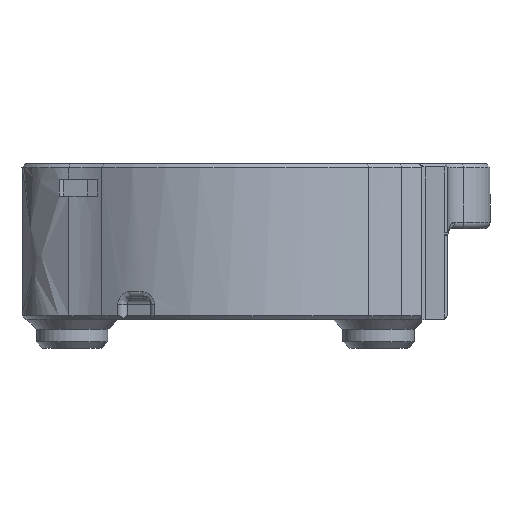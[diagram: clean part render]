
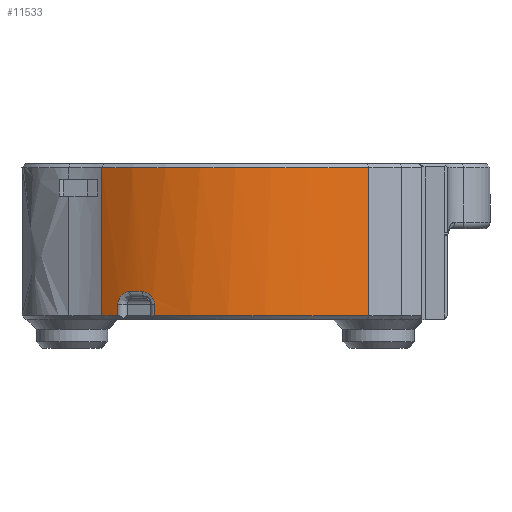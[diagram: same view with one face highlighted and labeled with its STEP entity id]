
A CAD part, left-side view. The second image highlights one B-rep face of the part: STEP entity #11533.
In plain terms, the highlighted cylindrical face has radius 35.44 mm (diameter 70.881 mm), a partial arc.
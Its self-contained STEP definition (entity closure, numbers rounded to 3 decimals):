
#1128=FACE_OUTER_BOUND('',#1817,.T.);
#1817=EDGE_LOOP('',(#10447,#10448,#10449,#10450,#10451,#10452,#10453,#10454,
#10455,#10456));
#2005=CIRCLE('',#12046,35.44);
#2008=CIRCLE('',#12057,35.44);
#2051=CIRCLE('',#12160,35.44);
#2055=CIRCLE('',#12173,35.44);
#2685=B_SPLINE_CURVE_WITH_KNOTS('',3,(#27312,#27313,#27314,#27315,#27316),
 .UNSPECIFIED.,.F.,.F.,(4,1,4),(0.,0.136,0.318),
 .UNSPECIFIED.);
#2687=B_SPLINE_CURVE_WITH_KNOTS('',3,(#27356,#27357,#27358,#27359,#27360),
 .UNSPECIFIED.,.F.,.F.,(4,1,4),(0.,0.18,0.315),
 .UNSPECIFIED.);
#2756=B_SPLINE_CURVE_WITH_KNOTS('',3,(#30514,#30515,#30516,#30517),
 .UNSPECIFIED.,.F.,.F.,(4,4),(-2.34,-0.06),.UNSPECIFIED.);
#2758=B_SPLINE_CURVE_WITH_KNOTS('',3,(#30524,#30525,#30526,#30527),
 .UNSPECIFIED.,.F.,.F.,(4,4),(0.06,2.34),.UNSPECIFIED.);
#3446=LINE('',#27263,#4297);
#3447=LINE('',#27372,#4298);
#4297=VECTOR('',#13770,10.);
#4298=VECTOR('',#13785,10.);
#5423=VERTEX_POINT('',#27260);
#5424=VERTEX_POINT('',#27262);
#5426=VERTEX_POINT('',#27310);
#5428=VERTEX_POINT('',#27319);
#5430=VERTEX_POINT('',#27354);
#5432=VERTEX_POINT('',#27363);
#5440=VERTEX_POINT('',#27429);
#5539=VERTEX_POINT('',#29923);
#5540=VERTEX_POINT('',#29930);
#5550=VERTEX_POINT('',#30513);
#6968=EDGE_CURVE('',#5423,#5424,#3446,.T.);
#6972=EDGE_CURVE('',#5426,#5423,#2685,.T.);
#6974=EDGE_CURVE('',#5428,#5426,#2005,.T.);
#6978=EDGE_CURVE('',#5430,#5428,#2687,.T.);
#6980=EDGE_CURVE('',#5432,#5430,#3447,.T.);
#6995=EDGE_CURVE('',#5424,#5440,#2008,.T.);
#7189=EDGE_CURVE('',#5539,#5540,#2051,.T.);
#7221=EDGE_CURVE('',#5540,#5550,#2756,.T.);
#7223=EDGE_CURVE('',#5550,#5432,#2055,.T.);
#7224=EDGE_CURVE('',#5440,#5539,#2758,.T.);
#10447=ORIENTED_EDGE('',*,*,#6980,.F.);
#10448=ORIENTED_EDGE('',*,*,#7223,.F.);
#10449=ORIENTED_EDGE('',*,*,#7221,.F.);
#10450=ORIENTED_EDGE('',*,*,#7189,.F.);
#10451=ORIENTED_EDGE('',*,*,#7224,.F.);
#10452=ORIENTED_EDGE('',*,*,#6995,.F.);
#10453=ORIENTED_EDGE('',*,*,#6968,.F.);
#10454=ORIENTED_EDGE('',*,*,#6972,.F.);
#10455=ORIENTED_EDGE('',*,*,#6974,.F.);
#10456=ORIENTED_EDGE('',*,*,#6978,.F.);
#10942=CYLINDRICAL_SURFACE('',#12172,35.44);
#11533=ADVANCED_FACE('',(#1128),#10942,.T.);
#12046=AXIS2_PLACEMENT_3D('',#27321,#13777,#13778);
#12057=AXIS2_PLACEMENT_3D('',#27430,#13806,#13807);
#12160=AXIS2_PLACEMENT_3D('',#29932,#14109,#14110);
#12172=AXIS2_PLACEMENT_3D('',#30522,#14147,#14148);
#12173=AXIS2_PLACEMENT_3D('',#30523,#14149,#14150);
#13770=DIRECTION('',(0.,0.,-1.));
#13777=DIRECTION('center_axis',(0.,0.,-1.));
#13778=DIRECTION('ref_axis',(-0.904,0.427,0.));
#13785=DIRECTION('',(0.,0.,1.));
#13806=DIRECTION('center_axis',(0.,0.,-1.));
#13807=DIRECTION('ref_axis',(-0.756,0.654,0.));
#14109=DIRECTION('center_axis',(0.,0.,1.));
#14110=DIRECTION('ref_axis',(-0.756,0.654,0.));
#14147=DIRECTION('center_axis',(0.,0.,1.));
#14148=DIRECTION('ref_axis',(-0.756,0.654,0.));
#14149=DIRECTION('center_axis',(0.,0.,-1.));
#14150=DIRECTION('ref_axis',(-0.756,0.654,0.));
#27260=CARTESIAN_POINT('',(-43.893,16.551,11.8));
#27262=CARTESIAN_POINT('',(-43.893,16.551,10.1));
#27263=CARTESIAN_POINT('',(-43.893,16.551,9.5));
#27310=CARTESIAN_POINT('',(-44.911,14.708,13.8));
#27312=CARTESIAN_POINT('Ctrl Pts',(-44.911,14.708,13.8));
#27313=CARTESIAN_POINT('Ctrl Pts',(-44.698,15.123,13.8));
#27314=CARTESIAN_POINT('Ctrl Pts',(-44.175,16.082,13.443));
#27315=CARTESIAN_POINT('Ctrl Pts',(-43.893,16.551,12.405));
#27316=CARTESIAN_POINT('Ctrl Pts',(-43.893,16.551,11.8));
#27319=CARTESIAN_POINT('',(-45.808,12.828,13.8));
#27321=CARTESIAN_POINT('Origin',(-13.391,-1.495,13.8));
#27354=CARTESIAN_POINT('',(-46.588,10.914,11.8));
#27356=CARTESIAN_POINT('Ctrl Pts',(-46.588,10.914,11.8));
#27357=CARTESIAN_POINT('Ctrl Pts',(-46.588,10.914,12.4));
#27358=CARTESIAN_POINT('Ctrl Pts',(-46.41,11.404,13.438));
#27359=CARTESIAN_POINT('Ctrl Pts',(-45.995,12.405,13.8));
#27360=CARTESIAN_POINT('Ctrl Pts',(-45.808,12.828,13.8));
#27363=CARTESIAN_POINT('',(-46.588,10.914,10.1));
#27372=CARTESIAN_POINT('',(-46.588,10.914,9.5));
#27429=CARTESIAN_POINT('',(-42.284,19.029,10.1));
#27430=CARTESIAN_POINT('Origin',(-13.391,-1.495,10.1));
#29923=CARTESIAN_POINT('',(-42.284,19.029,32.9));
#29930=CARTESIAN_POINT('',(-42.266,-22.044,32.9));
#29932=CARTESIAN_POINT('Origin',(-13.391,-1.495,32.9));
#30513=CARTESIAN_POINT('',(-42.266,-22.044,10.1));
#30514=CARTESIAN_POINT('Ctrl Pts',(-42.266,-22.044,
32.9));
#30515=CARTESIAN_POINT('Ctrl Pts',(-42.266,-22.044,
25.3));
#30516=CARTESIAN_POINT('Ctrl Pts',(-42.266,-22.044,
17.7));
#30517=CARTESIAN_POINT('Ctrl Pts',(-42.266,-22.044,
10.1));
#30522=CARTESIAN_POINT('Origin',(-13.391,-1.495,9.5));
#30523=CARTESIAN_POINT('Origin',(-13.391,-1.495,10.1));
#30524=CARTESIAN_POINT('Ctrl Pts',(-42.284,19.029,10.1));
#30525=CARTESIAN_POINT('Ctrl Pts',(-42.284,19.029,17.7));
#30526=CARTESIAN_POINT('Ctrl Pts',(-42.284,19.029,25.3));
#30527=CARTESIAN_POINT('Ctrl Pts',(-42.284,19.029,32.9));
